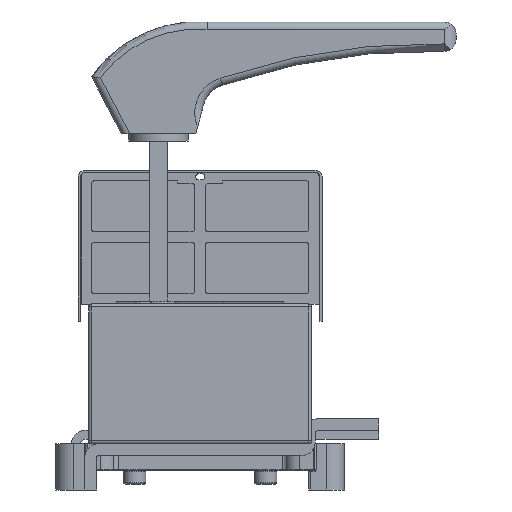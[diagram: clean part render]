
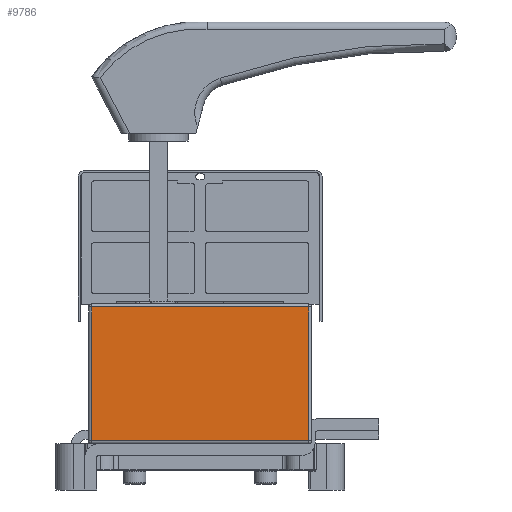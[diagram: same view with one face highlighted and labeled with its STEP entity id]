
A CAD part, left-side view. The second image highlights one B-rep face of the part: STEP entity #9786.
In plain terms, the highlighted planar face has unit normal (-1, 0, 0).
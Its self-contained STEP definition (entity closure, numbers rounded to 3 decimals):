
#2979=LINE('',#51983,#5805);
#2984=LINE('',#52004,#5810);
#2987=LINE('',#52027,#5813);
#2994=LINE('',#52037,#5820);
#5805=VECTOR('',#40024,1.);
#5810=VECTOR('',#40049,1.);
#5813=VECTOR('',#40078,1.);
#5820=VECTOR('',#40091,1.);
#6778=PLANE('',#32046);
#8196=FACE_OUTER_BOUND('',#12712,.T.);
#9786=ADVANCED_FACE('',(#8196),#6778,.F.);
#12712=EDGE_LOOP('',(#20316,#20317,#20318,#20319));
#20316=ORIENTED_EDGE('',*,*,#28022,.T.);
#20317=ORIENTED_EDGE('',*,*,#28004,.T.);
#20318=ORIENTED_EDGE('',*,*,#28015,.T.);
#20319=ORIENTED_EDGE('',*,*,#27993,.T.);
#23950=VERTEX_POINT('',#51969);
#23954=VERTEX_POINT('',#51980);
#23959=VERTEX_POINT('',#51997);
#23960=VERTEX_POINT('',#52001);
#27993=EDGE_CURVE('',#23954,#23950,#2979,.T.);
#28004=EDGE_CURVE('',#23960,#23959,#2984,.T.);
#28015=EDGE_CURVE('',#23959,#23954,#2987,.T.);
#28022=EDGE_CURVE('',#23950,#23960,#2994,.T.);
#32046=AXIS2_PLACEMENT_3D('',#52090,#40136,#40137);
#40024=DIRECTION('',(0.,1.,0.));
#40049=DIRECTION('',(0.,-1.,0.));
#40078=DIRECTION('',(0.,0.,1.));
#40091=DIRECTION('',(0.,0.,-1.));
#40136=DIRECTION('',(1.,0.,0.));
#40137=DIRECTION('',(0.,1.,0.));
#51969=CARTESIAN_POINT('',(-150.,73.,92.));
#51980=CARTESIAN_POINT('',(-150.,-73.,92.));
#51983=CARTESIAN_POINT('',(-150.,73.,92.));
#51997=CARTESIAN_POINT('',(-150.,-73.,2.));
#52001=CARTESIAN_POINT('',(-150.,73.,2.));
#52004=CARTESIAN_POINT('',(-150.,75.,2.));
#52027=CARTESIAN_POINT('',(-150.,-73.,94.));
#52037=CARTESIAN_POINT('',(-150.,73.,94.));
#52090=CARTESIAN_POINT('',(-150.,75.,94.));
